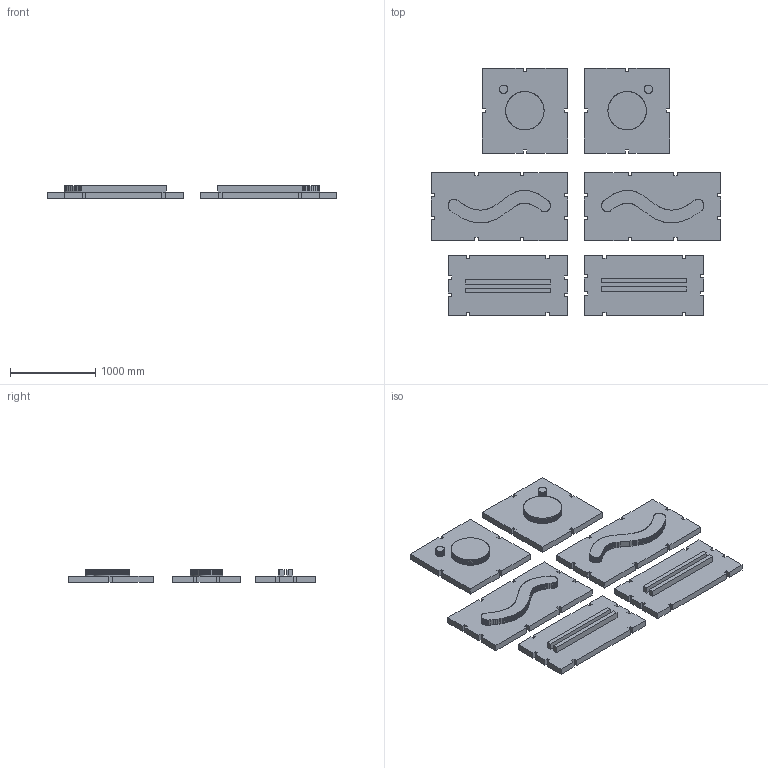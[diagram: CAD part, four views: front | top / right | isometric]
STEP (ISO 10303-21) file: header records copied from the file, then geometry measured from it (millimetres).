
FILE_DESCRIPTION(/* description */ (''),/* implementation_level */ '2;1');
FILE_NAME(/* name */ 'IKI-itajime',/* time_stamp */ '2026-09-01T14:08:05+02:00',/* author */ (''),/* organization */ (''),/* preprocessor_version */ 'ST-DEVELOPER v19.2',/* originating_system */ 'Rhino 8.29',/* authorisation */ '');
FILE_SCHEMA (('CONFIG_CONTROL_DESIGN'));
Length unit declared in the file: centimetre
Products named in the file (1): Document
Bounding box: 3399.18 x 2906.92 x 150 mm (x, y, z)
Volume: 588137680.2 mm3; surface area: 19763138.2 mm2
Topology: 22 solids, 22 shells, 2630 faces, 7758 edges, 5172 vertices
Faces by surface type: plane 2630
Entity records: 75438 total; most frequent: CARTESIAN_POINT 23320, ORIENTED_EDGE 15516, EDGE_CURVE 7758, B_SPLINE_CURVE_WITH_KNOTS 7758, VERTEX_POINT 5172, DIRECTION 2634, AXIS2_PLACEMENT_3D 2632, ADVANCED_FACE 2630
